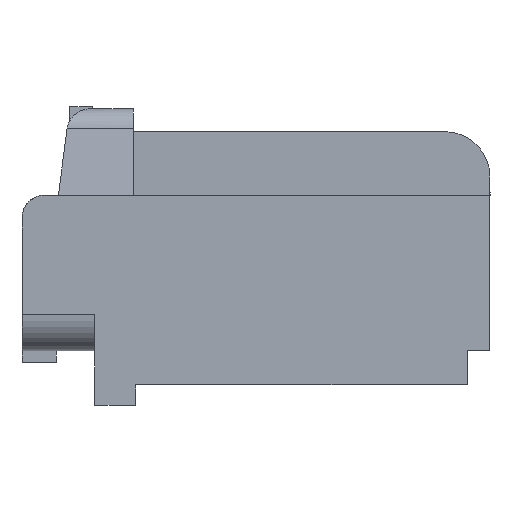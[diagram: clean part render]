
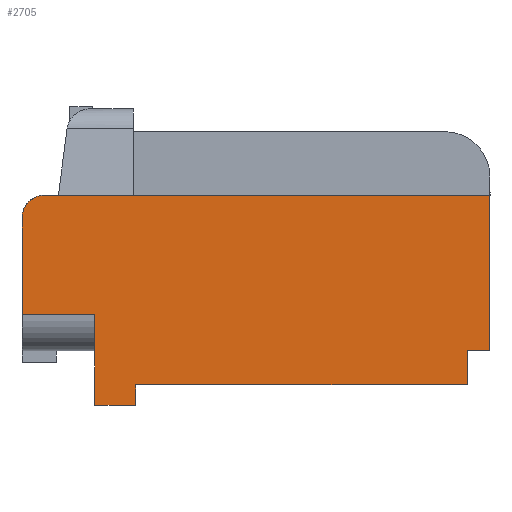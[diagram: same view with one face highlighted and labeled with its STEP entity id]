
A CAD part, front view. The second image highlights one B-rep face of the part: STEP entity #2705.
In plain terms, the highlighted planar face has unit normal (0, -1, 0).
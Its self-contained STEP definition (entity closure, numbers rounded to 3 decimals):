
#2685=AXIS2_PLACEMENT_3D('Plane Axis2P3D',#2682,#2683,#2684) ;
#2689=AXIS2_PLACEMENT_3D('Circle Axis2P3D',#2687,#2688,$) ;
#63=CARTESIAN_POINT('Vertex',(0.,-8.35,-2.7)) ;
#66=CARTESIAN_POINT('Line Origine',(-0.5,-8.35,-2.7)) ;
#70=CARTESIAN_POINT('Vertex',(-1.,-8.35,-2.7)) ;
#247=CARTESIAN_POINT('Vertex',(-15.6,-8.35,-4.2)) ;
#263=CARTESIAN_POINT('Vertex',(-1.,-8.35,-4.2)) ;
#266=CARTESIAN_POINT('Line Origine',(-8.3,-8.35,-4.2)) ;
#305=CARTESIAN_POINT('Line Origine',(-1.,-8.35,-3.45)) ;
#322=CARTESIAN_POINT('Line Origine',(-15.6,-8.35,-4.65)) ;
#326=CARTESIAN_POINT('Vertex',(-15.6,-8.35,-5.1)) ;
#2113=CARTESIAN_POINT('Vertex',(0.,-8.35,4.15)) ;
#2116=CARTESIAN_POINT('Line Origine',(0.,-8.35,0.725)) ;
#2348=CARTESIAN_POINT('Vertex',(-17.4,-8.35,-5.1)) ;
#2351=CARTESIAN_POINT('Line Origine',(-17.4,-8.35,-3.1)) ;
#2355=CARTESIAN_POINT('Vertex',(-17.4,-8.35,-1.1)) ;
#2419=CARTESIAN_POINT('Line Origine',(-10.3,-8.35,-1.1)) ;
#2423=CARTESIAN_POINT('Vertex',(-20.6,-8.35,-1.1)) ;
#2443=CARTESIAN_POINT('Line Origine',(-16.5,-8.35,-5.1)) ;
#2460=CARTESIAN_POINT('Line Origine',(-9.8,-8.35,4.15)) ;
#2464=CARTESIAN_POINT('Vertex',(-19.6,-8.35,4.15)) ;
#2566=CARTESIAN_POINT('Line Origine',(-20.6,-8.35,1.025)) ;
#2570=CARTESIAN_POINT('Vertex',(-20.6,-8.35,3.15)) ;
#2682=CARTESIAN_POINT('Axis2P3D Location',(0.,-8.35,0.)) ;
#2687=CARTESIAN_POINT('Axis2P3D Location',(-19.6,-8.35,3.15)) ;
#67=DIRECTION('Vector Direction',(1.,0.,0.)) ;
#267=DIRECTION('Vector Direction',(-1.,0.,0.)) ;
#306=DIRECTION('Vector Direction',(0.,0.,-1.)) ;
#323=DIRECTION('Vector Direction',(0.,0.,-1.)) ;
#2117=DIRECTION('Vector Direction',(0.,0.,1.)) ;
#2352=DIRECTION('Vector Direction',(0.,0.,1.)) ;
#2420=DIRECTION('Vector Direction',(1.,0.,0.)) ;
#2444=DIRECTION('Vector Direction',(-1.,0.,0.)) ;
#2461=DIRECTION('Vector Direction',(-1.,0.,0.)) ;
#2567=DIRECTION('Vector Direction',(0.,0.,-1.)) ;
#2683=DIRECTION('Axis2P3D Direction',(0.,1.,0.)) ;
#2684=DIRECTION('Axis2P3D XDirection',(0.,0.,1.)) ;
#2688=DIRECTION('Axis2P3D Direction',(0.,1.,0.)) ;
#68=VECTOR('Line Direction',#67,1.) ;
#268=VECTOR('Line Direction',#267,1.) ;
#307=VECTOR('Line Direction',#306,1.) ;
#324=VECTOR('Line Direction',#323,1.) ;
#2118=VECTOR('Line Direction',#2117,1.) ;
#2353=VECTOR('Line Direction',#2352,1.) ;
#2421=VECTOR('Line Direction',#2420,1.) ;
#2445=VECTOR('Line Direction',#2444,1.) ;
#2462=VECTOR('Line Direction',#2461,1.) ;
#2568=VECTOR('Line Direction',#2567,1.) ;
#2693=ORIENTED_EDGE('',*,*,#2691,.F.) ;
#2694=ORIENTED_EDGE('',*,*,#2572,.T.) ;
#2695=ORIENTED_EDGE('',*,*,#2425,.T.) ;
#2696=ORIENTED_EDGE('',*,*,#2357,.F.) ;
#2697=ORIENTED_EDGE('',*,*,#2447,.F.) ;
#2698=ORIENTED_EDGE('',*,*,#328,.F.) ;
#2699=ORIENTED_EDGE('',*,*,#270,.F.) ;
#2700=ORIENTED_EDGE('',*,*,#309,.F.) ;
#2701=ORIENTED_EDGE('',*,*,#72,.T.) ;
#2702=ORIENTED_EDGE('',*,*,#2120,.T.) ;
#2703=ORIENTED_EDGE('',*,*,#2466,.T.) ;
#2705=ADVANCED_FACE('HSG',(#2704),#2686,.F.) ;
#2690=CIRCLE('generated circle',#2689,1.) ;
#72=EDGE_CURVE('',#71,#64,#69,.T.) ;
#270=EDGE_CURVE('',#264,#248,#269,.T.) ;
#309=EDGE_CURVE('',#71,#264,#308,.T.) ;
#328=EDGE_CURVE('',#248,#327,#325,.T.) ;
#2120=EDGE_CURVE('',#64,#2114,#2119,.T.) ;
#2357=EDGE_CURVE('',#2349,#2356,#2354,.T.) ;
#2425=EDGE_CURVE('',#2424,#2356,#2422,.T.) ;
#2447=EDGE_CURVE('',#327,#2349,#2446,.T.) ;
#2466=EDGE_CURVE('',#2114,#2465,#2463,.T.) ;
#2572=EDGE_CURVE('',#2571,#2424,#2569,.T.) ;
#2691=EDGE_CURVE('',#2571,#2465,#2690,.T.) ;
#2692=EDGE_LOOP('',(#2693,#2694,#2695,#2696,#2697,#2698,#2699,#2700,#2701,#2702,#2703)) ;
#2704=FACE_OUTER_BOUND('',#2692,.T.) ;
#69=LINE('Line',#66,#68) ;
#269=LINE('Line',#266,#268) ;
#308=LINE('Line',#305,#307) ;
#325=LINE('Line',#322,#324) ;
#2119=LINE('Line',#2116,#2118) ;
#2354=LINE('Line',#2351,#2353) ;
#2422=LINE('Line',#2419,#2421) ;
#2446=LINE('Line',#2443,#2445) ;
#2463=LINE('Line',#2460,#2462) ;
#2569=LINE('Line',#2566,#2568) ;
#2686=PLANE('',#2685) ;
#64=VERTEX_POINT('',#63) ;
#71=VERTEX_POINT('',#70) ;
#248=VERTEX_POINT('',#247) ;
#264=VERTEX_POINT('',#263) ;
#327=VERTEX_POINT('',#326) ;
#2114=VERTEX_POINT('',#2113) ;
#2349=VERTEX_POINT('',#2348) ;
#2356=VERTEX_POINT('',#2355) ;
#2424=VERTEX_POINT('',#2423) ;
#2465=VERTEX_POINT('',#2464) ;
#2571=VERTEX_POINT('',#2570) ;
